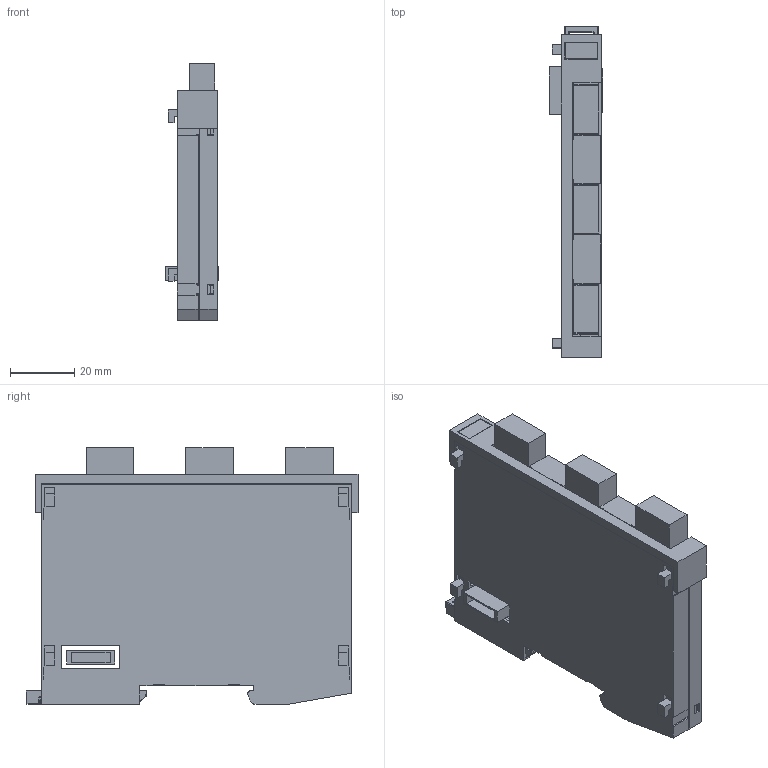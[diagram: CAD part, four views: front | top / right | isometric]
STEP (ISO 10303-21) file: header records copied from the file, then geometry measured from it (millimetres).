
FILE_DESCRIPTION (( 'STEP AP214' ), '1' );
FILE_NAME ('AI031 support.STEP', '2018-02-13T08:09:27', ( 'SIGMATEK GmbH & Co KG' ), ( 'SIGMATEK GmbH & Co KG' ), 'SwSTEP 2.0', 'SolidWorks 2017', '' );
FILE_SCHEMA (( 'AUTOMOTIVE_DESIGN' ));
Length unit declared in the file: millimetre
Products named in the file (12): Steckerabdeckung_Var 9; LP_AI031; Dummy_4110262104 4pol.Federkraftstecker f.2reih 1952283; Dummy_4110251205 4pol.Minicombicon-Grundgehäuse RM3,5 1937512; Dummy_4080225346 Erni Stift; Dummy_4080225345 Erni Buchse; S-Dias Rasthaken 20130313; Schieber_f Suport; S-Dias Schale rechts_f Suport; S-Dias Schale links_f Suport; 4110251342_MF 10-5 MC CABUR_1854510000; AI031 support
Assembly tree (16 placements, depth 3):
  AI031 support
    4110251342_MF 10-5 MC CABUR_1854510000
    S-Dias Schale links_f Suport
    S-Dias Schale rechts_f Suport
    Schieber_f Suport
    S-Dias Rasthaken 20130313
    LP_AI031
      Dummy_4080225345 Erni Buchse
      Dummy_4080225346 Erni Stift
      Dummy_4110251205 4pol.Minicombicon-Grundgehäuse RM3,5 1937512  x3
      Dummy_4110262104 4pol.Federkraftstecker f.2reih 1952283  x3
    Steckerabdeckung_Var 9  x2
Bounding box: 16.8 x 103.61 x 80.15 mm (x, y, z)
Volume: 29830.2 mm3; surface area: 45035.8 mm2
Topology: 15 solids, 15 shells, 913 faces, 2637 edges, 1746 vertices
Faces by surface type: plane 660, cylinder 142, bspline 55, cone 28, torus 15, sphere 13
Entity records: 32043 total; most frequent: CARTESIAN_POINT 7543, ORIENTED_EDGE 4768, DIRECTION 3747, EDGE_CURVE 2384, VECTOR 1717, LINE 1717, VERTEX_POINT 1584, AXIS2_PLACEMENT_3D 1015
